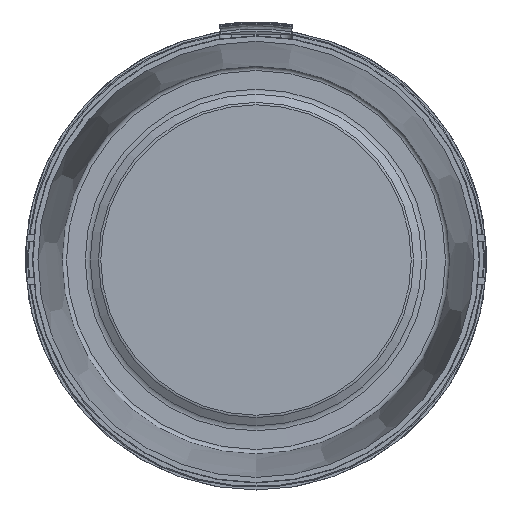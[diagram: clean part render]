
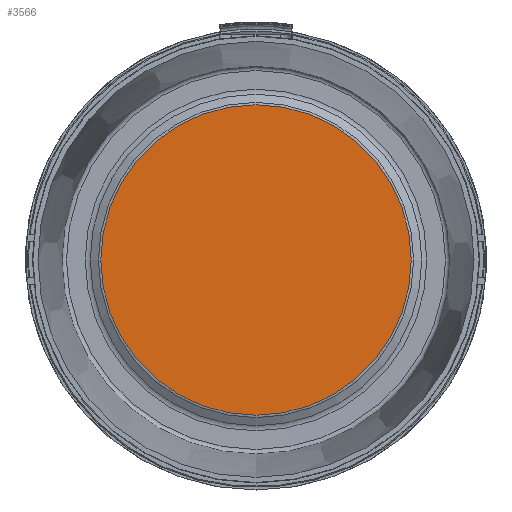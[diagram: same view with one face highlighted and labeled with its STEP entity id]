
A CAD part, top view. The second image highlights one B-rep face of the part: STEP entity #3566.
In plain terms, the highlighted planar face has unit normal (0, 0, 1).
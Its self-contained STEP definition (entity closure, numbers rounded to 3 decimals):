
#3566=ADVANCED_FACE('',(#11431),#11433,.T.);
#11431=FACE_BOUND('',#11432,.T.);
#11432=EDGE_LOOP('',(#18760));
#11433=PLANE('',#11434);
#11434=AXIS2_PLACEMENT_3D('',#11435,#11436,#11437);
#11435=CARTESIAN_POINT('',(0.,0.,-152.184));
#11436=DIRECTION('',(0.,0.,1.));
#11437=DIRECTION('',(0.,-1.,0.));
#18760=ORIENTED_EDGE('',*,*,#24444,.T.);
#24444=EDGE_CURVE('',#28525,#28525,#28526,.T.);
#28525=VERTEX_POINT('',#38436);
#28526=CIRCLE('',#38437,64.54);
#38436=CARTESIAN_POINT('',(0.,-64.54,-152.184));
#38437=AXIS2_PLACEMENT_3D('',#38438,#38439,#38440);
#38438=CARTESIAN_POINT('',(0.,0.,-152.184));
#38439=DIRECTION('',(0.,0.,1.));
#38440=DIRECTION('',(0.,-1.,0.));
